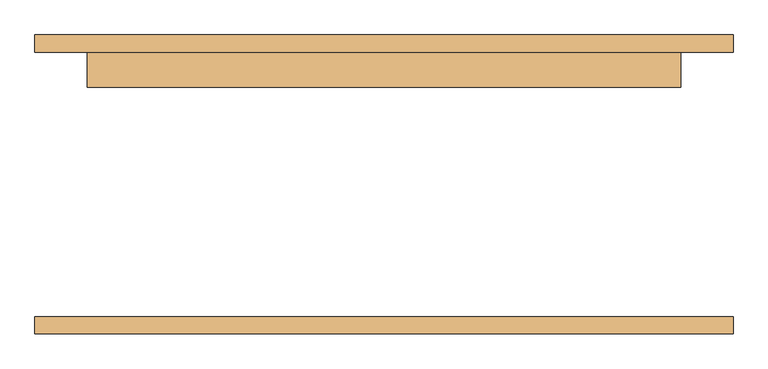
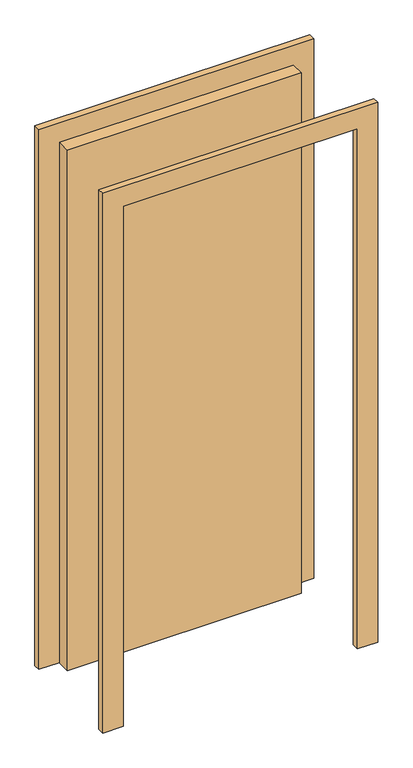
"""IFC4 building model written with IfcOpenShell, lengths in millimetres: door geometry, Одиночные-Щитовые : 0864 x 2032 мм."""

from ifc_helpers import new_model, si_unit, frame, origin, origin_with_axes, place, context, project, spatial, polyline, outline, extrude, source, transform, mapped, element, save


def door_ea98532d(model_context):
    return source(origin(), model_context, "Body", "SweptSolid", [
        extrude(outline(polyline([(2108.0, -508.0), (0.0, -508.0), (0.0, -432.0), (2032.0, -432.0), (2032.0, 432.0), (0.0, 432.0), (0.0, 508.0), (2108.0, 508.0), (2108.0, -508.0)])), frame((0.0, 192.5, 0.0), z_axis=(0.0, 1.0, 0.0), x_axis=(0.0, 0.0, 1.0)), (0.0, 0.0, 1.0), 25.0),
        extrude(outline(polyline([(2108.0, 508.0), (2108.0, -508.0), (0.0, -508.0), (0.0, -432.0), (2032.0, -432.0), (2032.0, 432.0), (0.0, 432.0), (0.0, 508.0), (2108.0, 508.0)])), frame((0.0, -217.5, 0.0), z_axis=(0.0, 1.0, 0.0), x_axis=(0.0, 0.0, 1.0)), (0.0, 0.0, 1.0), 25.0),
        extrude(outline(polyline([(432.0, 141.5), (-432.0, 141.5), (-432.0, 192.5), (432.0, 192.5), (432.0, 141.5)])), origin_with_axes(), (0.0, 0.0, 1.0), 2032.0),
    ])


if __name__ == "__main__":
    model = new_model("IFC4")
    model_context = context("Model", 3, world=origin())
    ifc_project = project(units=[si_unit("LENGTHUNIT", "METRE", prefix="MILLI")], contexts=[model_context])
    site = spatial("IfcSite", under=ifc_project)
    building = spatial("IfcBuilding", under=site)
    placement = place(None, origin())
    door_shape = door_ea98532d(model_context)
    element("IfcDoor", 1, ObjectType="Одиночные-Щитовые : 0864 x 2032 мм", at=placement, inside=building, context=model_context, shape_type="MappedRepresentation", body=[
        mapped(door_shape, transform((0.0, 0.0, 0.0), x_axis=(1.0, 0.0, 0.0), y_axis=(0.0, 1.0, 0.0), z_axis=(0.0, 0.0, 1.0))),
    ])
    save(model, "model.ifc")
